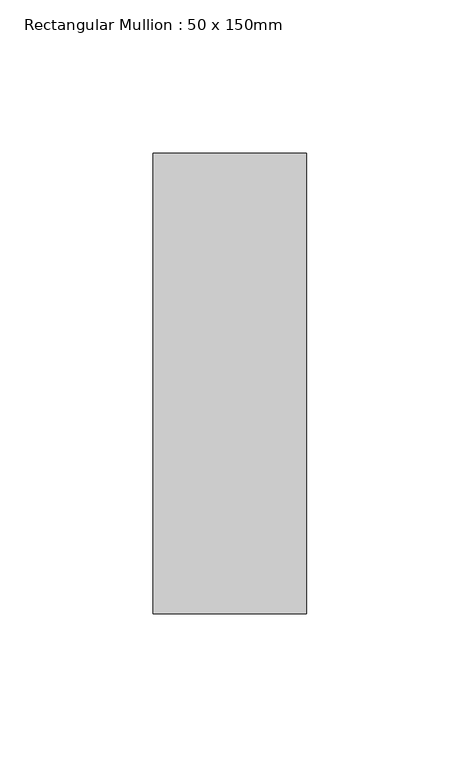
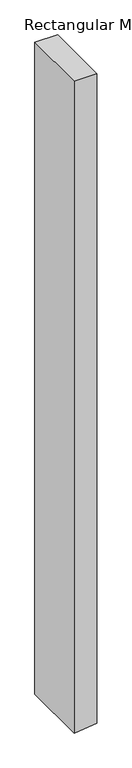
"""IFC4 building model written with IfcOpenShell, lengths in millimetres: member geometry, Rectangular Mullion : 50 x 150mm."""

from ifc_helpers import new_model, si_unit, frame, origin, place, context, project, spatial, polyline, outline, extrude, source, transform, mapped, element, save


def rectangular_mullion_50_x_150mm_7b1eb156(model_context):
    return source(origin(), model_context, "Body", "SweptSolid", [
        extrude(outline(polyline([(0.0, 25.0), (0.0, -25.0), (-1517.31395, -25.0), (-1515.3031829, -5.0022633), (-1512.2864633, 25.0), (0.0, 25.0)])), frame((0.0, -75.0, 0.0), z_axis=(0.0, 1.0, 0.0), x_axis=(0.0, 0.0, 1.0)), (0.0, 0.0, 1.0), 150.0),
    ])


if __name__ == "__main__":
    model = new_model("IFC4")
    model_context = context("Model", 3, world=origin())
    ifc_project = project(units=[si_unit("LENGTHUNIT", "METRE", prefix="MILLI")], contexts=[model_context])
    site = spatial("IfcSite", under=ifc_project)
    building = spatial("IfcBuilding", under=site)
    placement = place(None, origin())
    rectangular_mullion_50_x_150mm_shape = rectangular_mullion_50_x_150mm_7b1eb156(model_context)
    element("IfcMember", 1, ObjectType="Rectangular Mullion : 50 x 150mm", at=placement, inside=building, context=model_context, shape_type="MappedRepresentation", body=[
        mapped(rectangular_mullion_50_x_150mm_shape, transform((0.0, 0.0, 0.0), x_axis=(1.0, 0.0, 0.0), y_axis=(0.0, 1.0, 0.0), z_axis=(0.0, 0.0, 1.0))),
    ])
    save(model, "model.ifc")
